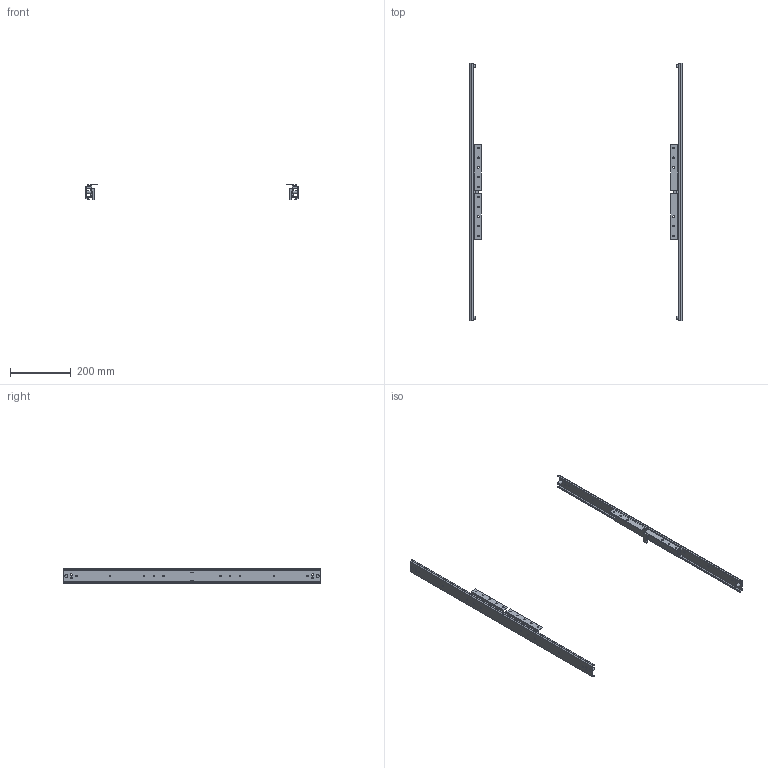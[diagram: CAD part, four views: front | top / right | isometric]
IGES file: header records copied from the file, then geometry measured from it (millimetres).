
Start section: Data from Parasolid IGES Translator 15.0.47, Copyright(c) 2006 Siemens P LM Software. All Rights Reserved.
Global section: file name: 9079740.igs; native system:  By UGS Corp.; preprocessor: XPlus GENERIC/IGES 3.0; author: Noname; organization: Noname; date: 20140620.121725; units: millimetre
Bounding box: 700 x 850 x 50.9 mm (x, y, z)
Surface area: 326103 mm2 (no closed solid volume)
Topology: 0 solids, 0 shells, 200 faces, 1120 edges, 1024 vertices
Faces by surface type: extrusion 136, revolution 64
